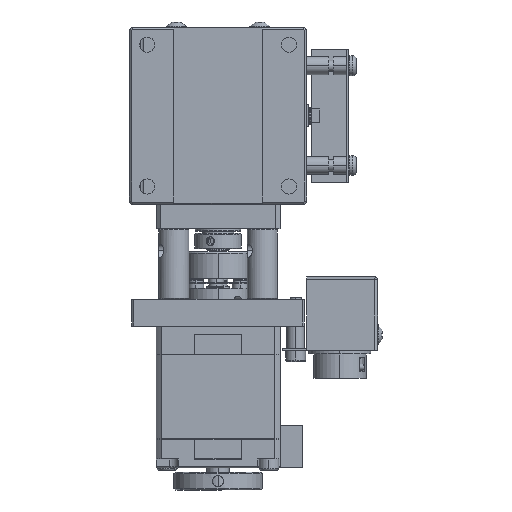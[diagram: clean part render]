
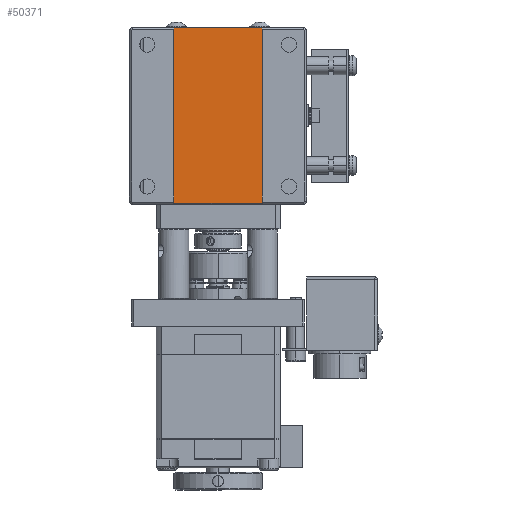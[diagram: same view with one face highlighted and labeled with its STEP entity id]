
A CAD part, front view. The second image highlights one B-rep face of the part: STEP entity #50371.
In plain terms, the highlighted planar face has unit normal (0, -1, 0).
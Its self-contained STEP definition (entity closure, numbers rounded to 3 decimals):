
#1084 = EDGE_CURVE ( 'NONE', #36292, #34794, #51127, .T. ) ;
#8890 = DIRECTION ( 'NONE',  ( 0., 0., -1. ) ) ;
#9315 = LINE ( 'NONE', #47561, #35427 ) ;
#9484 = CARTESIAN_POINT ( 'NONE',  ( -34.516, -14.526, 37.778 ) ) ;
#9741 = DIRECTION ( 'NONE',  ( 0., 0., 1. ) ) ;
#9780 = CARTESIAN_POINT ( 'NONE',  ( -44.516, -14.526, 37.778 ) ) ;
#9985 = CARTESIAN_POINT ( 'NONE',  ( -44.516, -14.526, 37.978 ) ) ;
#11877 = VERTEX_POINT ( 'NONE', #28004 ) ;
#16261 = VECTOR ( 'NONE', #8890, 1000. ) ;
#21476 = EDGE_CURVE ( 'NONE', #11877, #36292, #9315, .T. ) ;
#23461 = CARTESIAN_POINT ( 'NONE',  ( -34.516, -14.526, 37.978 ) ) ;
#26428 = EDGE_LOOP ( 'NONE', ( #57713, #39793, #35083, #59915 ) ) ;
#28004 = CARTESIAN_POINT ( 'NONE',  ( -14.516, -14.526, 77.578 ) ) ;
#28285 = FACE_OUTER_BOUND ( 'NONE', #26428, .T. ) ;
#28587 = DIRECTION ( 'NONE',  ( -1., 0., 0. ) ) ;
#29611 = CARTESIAN_POINT ( 'NONE',  ( -34.516, -14.526, 77.578 ) ) ;
#33531 = DIRECTION ( 'NONE',  ( 0., -1., 0. ) ) ;
#34794 = VERTEX_POINT ( 'NONE', #23461 ) ;
#35083 = ORIENTED_EDGE ( 'NONE', *, *, #60752, .T. ) ;
#35427 = VECTOR ( 'NONE', #55626, 1000. ) ;
#36292 = VERTEX_POINT ( 'NONE', #29611 ) ;
#38999 = LINE ( 'NONE', #9985, #41254 ) ;
#39793 = ORIENTED_EDGE ( 'NONE', *, *, #1084, .T. ) ;
#40246 = EDGE_CURVE ( 'NONE', #58602, #11877, #56658, .T. ) ;
#41254 = VECTOR ( 'NONE', #43321, 1000. ) ;
#43321 = DIRECTION ( 'NONE',  ( 1., 0., 0. ) ) ;
#47561 = CARTESIAN_POINT ( 'NONE',  ( -44.516, -14.526, 77.578 ) ) ;
#47968 = VECTOR ( 'NONE', #9741, 1000. ) ;
#48011 = AXIS2_PLACEMENT_3D ( 'NONE', #9780, #33531, #28587 ) ;
#50371 = ADVANCED_FACE ( 'NONE', ( #28285 ), #52036, .T. ) ;
#51127 = LINE ( 'NONE', #9484, #16261 ) ;
#51996 = CARTESIAN_POINT ( 'NONE',  ( -14.516, -14.526, 37.778 ) ) ;
#52036 = PLANE ( 'NONE',  #48011 ) ;
#55067 = CARTESIAN_POINT ( 'NONE',  ( -14.516, -14.526, 37.978 ) ) ;
#55626 = DIRECTION ( 'NONE',  ( -1., 0., 0. ) ) ;
#56658 = LINE ( 'NONE', #51996, #47968 ) ;
#57713 = ORIENTED_EDGE ( 'NONE', *, *, #21476, .T. ) ;
#58602 = VERTEX_POINT ( 'NONE', #55067 ) ;
#59915 = ORIENTED_EDGE ( 'NONE', *, *, #40246, .T. ) ;
#60752 = EDGE_CURVE ( 'NONE', #34794, #58602, #38999, .T. ) ;
